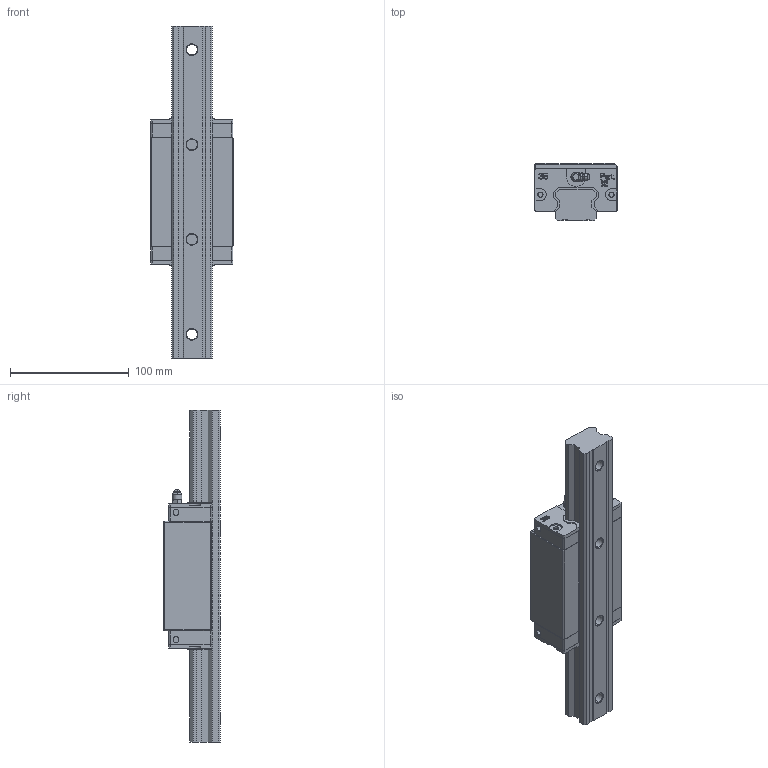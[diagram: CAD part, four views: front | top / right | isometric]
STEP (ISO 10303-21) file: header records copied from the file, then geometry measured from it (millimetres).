
FILE_DESCRIPTION (( 'STEP AP203' ), '1' );
FILE_NAME ('BGCS35BL.STEP', '2025-10-20T07:27:52', ( '' ), ( '' ), 'SwSTEP 2.0', 'SolidWorks 2020', '' );
FILE_SCHEMA (( 'CONFIG_CONTROL_DESIGN' ));
Length unit declared in the file: millimetre
Products named in the file (5): BG35端防塵; BGR35-L280; NGX02; BGXS35BL; BGCS35BL
Assembly tree (5 placements, depth 2):
  BGCS35BL
    BGR35-L280
    BGXS35BL
    BG35端防塵  x2
    NGX02
Bounding box: 69.95 x 48 x 280 mm (x, y, z)
Volume: 470289.1 mm3; surface area: 94385 mm2
Topology: 7 solids, 7 shells, 889 faces, 2441 edges, 1617 vertices
Faces by surface type: plane 668, cylinder 130, bspline 50, cone 37, torus 4
Entity records: 20026 total; most frequent: CARTESIAN_POINT 4603, ORIENTED_EDGE 3164, DIRECTION 2929, EDGE_CURVE 1582, VECTOR 1207, LINE 1207, VERTEX_POINT 1045, AXIS2_PLACEMENT_3D 861
